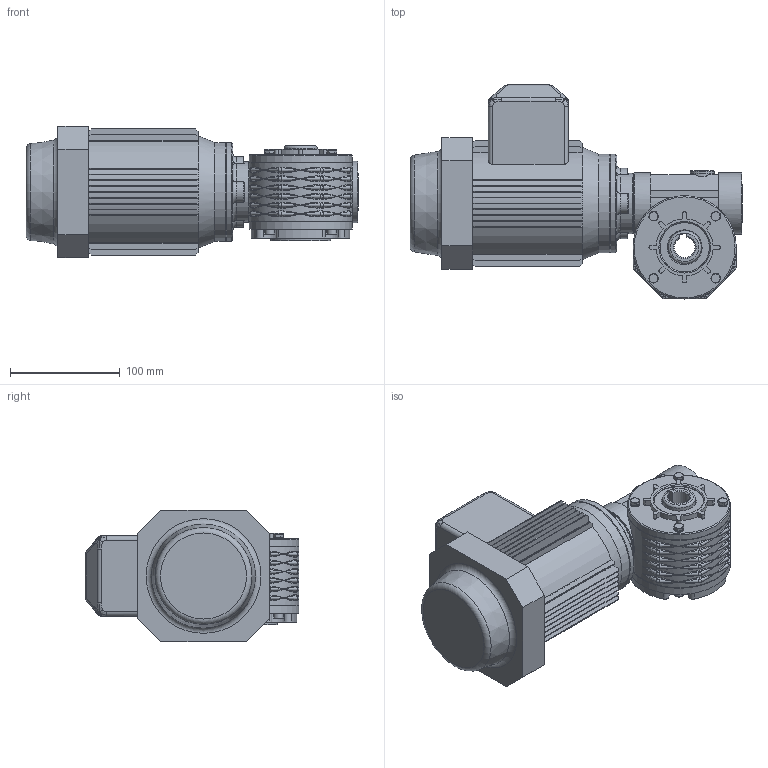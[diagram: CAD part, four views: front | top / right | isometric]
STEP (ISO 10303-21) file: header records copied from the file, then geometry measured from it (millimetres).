
FILE_DESCRIPTION((''),'2;1');
FILE_NAME('Y:\Archivi Inventor\Prog_01\GRAND_05\Figurini\MRV05 VECCHIO\63 B14\MRV05_PAM63B14_FP2.stp','2014-01-14T11:19:58',('tech3'),(''),'Autodesk Inventor 2013','Autodesk Inventor 2013','');
FILE_SCHEMA(('AUTOMOTIVE_DESIGN { 1 0 10303 214 1 1 1 1 }'));
Length unit declared in the file: millimetre
Products named in the file (19): Assieme1; V05_PRIMARIO; 0100501-A1xfigurini; 0100529-A0; RCA_35x7; 0100528-A0; PARAOLIO 20x30x8; Guarnizione 3_8 GAS; UNI 6592 5.3 x 10; PARAOLIO 30x45x8; Tappo 3_8 GAS_esagn_incsst; Corona MRV05 F=19 x figurini; UNI 5931  M 5 x  16; 0100502; 0100504; DIN EN 24017 M5 x 16; DIN EN ISO 4762 M5 x 16; 0100506; motori B14 63
Assembly tree (29 placements, depth 3):
  Assieme1
    V05_PRIMARIO
      0100501-A1xfigurini
      0100529-A0  x2
      RCA_35x7
      0100528-A0
      PARAOLIO 20x30x8
      Guarnizione 3_8 GAS
      UNI 6592 5.3 x 10
      PARAOLIO 30x45x8  x2
      Tappo 3_8 GAS_esagn_incsst
      Corona MRV05 F=19 x figurini
      UNI 5931  M 5 x  16  x4
      0100502
      0100504
      DIN EN 24017 M5 x 16  x4
      DIN EN ISO 4762 M5 x 16  x4
    0100506
    motori B14 63
Bounding box: 302.65 x 195 x 120 mm (x, y, z)
Volume: 2467311.3 mm3; surface area: 327380.2 mm2
Topology: 28 solids, 28 shells, 1271 faces, 3080 edges, 1955 vertices
Faces by surface type: plane 586, cylinder 384, torus 111, bspline 108, cone 78, sphere 4
Full cylindrical faces by diameter (mm): 4.134 x16, 4.917 x4, 5 x12, 5.3 x1, 5.5 x24, 6.88 x4, 7 x4, 8 x1, 8.5 x16, 10 x1, 11 x1, 14.95 x1, 16.3 x1, 16.5 x1, 22 x2, 23.105 x1, 28 x1, 30 x4, 30.8 x1, 34.105 x2, 35 x5, 42 x2, 45 x5, 55 x3, 56 x2, 60 x2, 63 x2, 70 x6, 90 x2, 93.5 x2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
Entity records: 61357 total; most frequent: CARTESIAN_POINT 34979, DIRECTION 5407, ORIENTED_EDGE 4942, EDGE_CURVE 2471, AXIS2_PLACEMENT_3D 2122, VERTEX_POINT 1628, EDGE_LOOP 1413, VECTOR 1163
